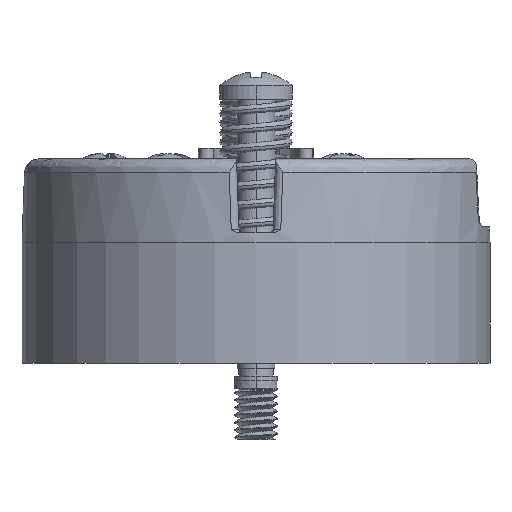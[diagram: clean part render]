
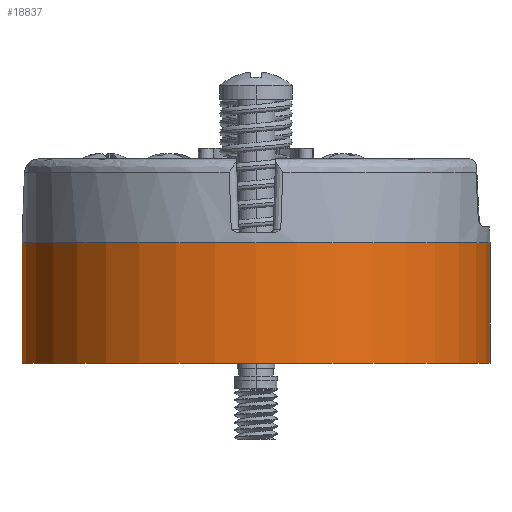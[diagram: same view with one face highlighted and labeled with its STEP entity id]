
A CAD part, front view. The second image highlights one B-rep face of the part: STEP entity #18837.
In plain terms, the highlighted cylindrical face has radius 22 mm (diameter 44 mm), a partial arc.
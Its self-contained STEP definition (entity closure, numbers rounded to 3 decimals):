
#255 = VERTEX_POINT ( 'NONE', #4633 ) ;
#720 = VECTOR ( 'NONE', #9997, 1000. ) ;
#748 = DIRECTION ( 'NONE',  ( 1., 0., 0. ) ) ;
#822 = CARTESIAN_POINT ( 'NONE',  ( 22., 0., 0. ) ) ;
#1561 = DIRECTION ( 'NONE',  ( 0., 0., 1. ) ) ;
#3243 = ORIENTED_EDGE ( 'NONE', *, *, #23815, .T. ) ;
#4450 = VERTEX_POINT ( 'NONE', #7471 ) ;
#4633 = CARTESIAN_POINT ( 'NONE',  ( 22., 0., 0. ) ) ;
#5336 = ORIENTED_EDGE ( 'NONE', *, *, #22236, .T. ) ;
#7471 = CARTESIAN_POINT ( 'NONE',  ( -22., 0., 0. ) ) ;
#7720 = DIRECTION ( 'NONE',  ( 1., 0., 0. ) ) ;
#9056 = EDGE_CURVE ( 'NONE', #4450, #255, #27930, .T. ) ;
#9086 = ORIENTED_EDGE ( 'NONE', *, *, #9056, .T. ) ;
#9997 = DIRECTION ( 'NONE',  ( 0., 0., 1. ) ) ;
#10385 = DIRECTION ( 'NONE',  ( 0., 0., 1. ) ) ;
#10632 = VERTEX_POINT ( 'NONE', #17981 ) ;
#11772 = CARTESIAN_POINT ( 'NONE',  ( 0., 0., 0. ) ) ;
#13211 = AXIS2_PLACEMENT_3D ( 'NONE', #28303, #10385, #7720 ) ;
#13367 = CYLINDRICAL_SURFACE ( 'NONE', #26713, 22. ) ;
#14254 = DIRECTION ( 'NONE',  ( 0., 0., 1. ) ) ;
#14332 = LINE ( 'NONE', #822, #31999 ) ;
#15538 = LINE ( 'NONE', #17836, #720 ) ;
#16218 = VERTEX_POINT ( 'NONE', #18216 ) ;
#16501 = CARTESIAN_POINT ( 'NONE',  ( 0., 0., 11.3 ) ) ;
#16612 = DIRECTION ( 'NONE',  ( 0., 0., -1. ) ) ;
#17776 = EDGE_LOOP ( 'NONE', ( #28146, #9086, #5336, #3243 ) ) ;
#17836 = CARTESIAN_POINT ( 'NONE',  ( -22., 0., 0. ) ) ;
#17981 = CARTESIAN_POINT ( 'NONE',  ( 22., 0., 11.3 ) ) ;
#18216 = CARTESIAN_POINT ( 'NONE',  ( -22., 0., 11.3 ) ) ;
#18837 = ADVANCED_FACE ( 'NONE', ( #19118 ), #13367, .T. ) ;
#19118 = FACE_OUTER_BOUND ( 'NONE', #17776, .T. ) ;
#19837 = DIRECTION ( 'NONE',  ( 1., 0., 0. ) ) ;
#22236 = EDGE_CURVE ( 'NONE', #255, #10632, #14332, .T. ) ;
#22918 = AXIS2_PLACEMENT_3D ( 'NONE', #16501, #16612, #748 ) ;
#23056 = EDGE_CURVE ( 'NONE', #4450, #16218, #15538, .T. ) ;
#23698 = CIRCLE ( 'NONE', #22918, 22. ) ;
#23815 = EDGE_CURVE ( 'NONE', #10632, #16218, #23698, .T. ) ;
#26713 = AXIS2_PLACEMENT_3D ( 'NONE', #11772, #1561, #19837 ) ;
#27930 = CIRCLE ( 'NONE', #13211, 22. ) ;
#28146 = ORIENTED_EDGE ( 'NONE', *, *, #23056, .F. ) ;
#28303 = CARTESIAN_POINT ( 'NONE',  ( 0., 0., 0. ) ) ;
#31999 = VECTOR ( 'NONE', #14254, 1000. ) ;
